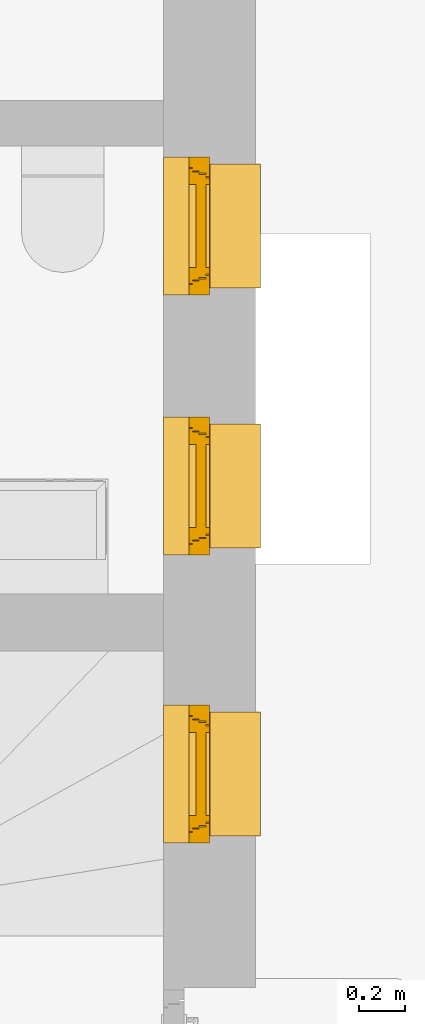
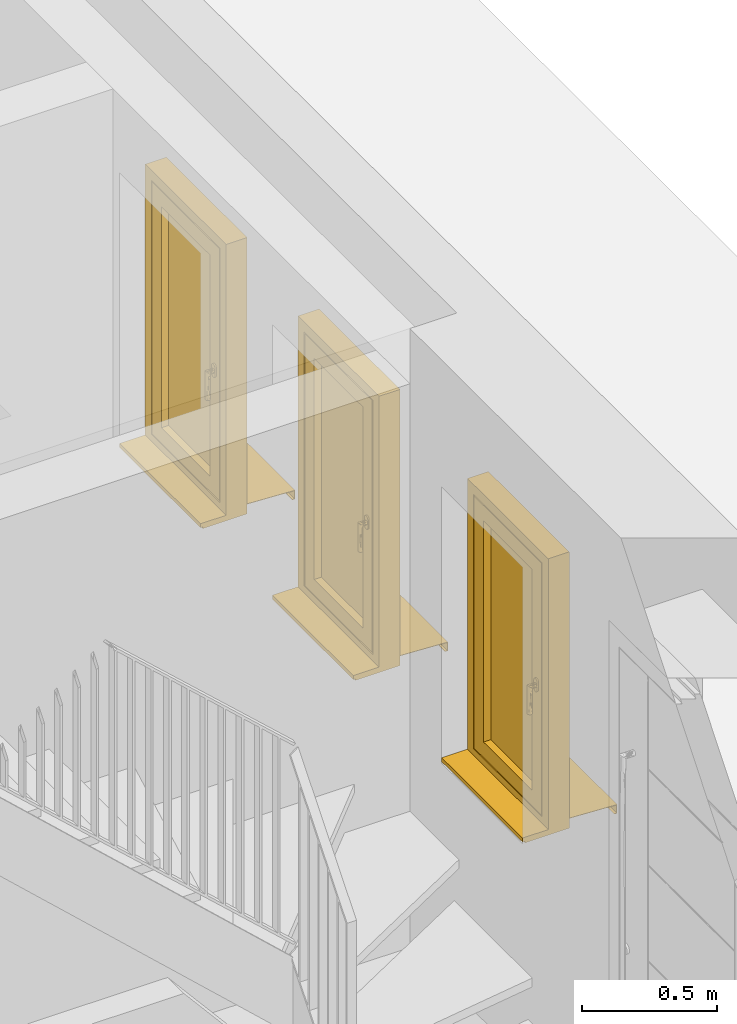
# One storey, part 9 of 18: 3 windows.
"""IFC2X3 building model written with IfcOpenShell, lengths in metres."""

from ifc_helpers import new_model, entity, si_unit, converted_unit, derived_unit, direction, frame, frame_2d, origin, place, context, subcontext, project, spatial, polyline, rectangle, outline, extrude, faceted_brep, source, transform, mapped, material, material_list, type_object, type_shapes, element, save


model = new_model("IFC2X3")

# Units and contexts
model_context = context("Model", 3, precision=1e-05, world=origin(), true_north=direction((6.123233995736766e-17, 1.0)))
body_context = subcontext(model_context, "Body", "Model", "MODEL_VIEW")
ifc_project = project(units=[si_unit("LENGTHUNIT", "METRE"), si_unit("AREAUNIT", "SQUARE_METRE"), si_unit("VOLUMEUNIT", "CUBIC_METRE"), si_unit("POWERUNIT", "WATT"), derived_unit("USERDEFINED", [(si_unit("MASSUNIT", "GRAM", prefix="KILO"), 1), (si_unit("TIMEUNIT", "SECOND"), -3)]), derived_unit("THERMALRESISTANCEUNIT", [(si_unit("MASSUNIT", "GRAM", prefix="KILO"), -1), (si_unit("TIMEUNIT", "SECOND"), 3), (si_unit("THERMODYNAMICTEMPERATUREUNIT", "KELVIN"), 1)]), derived_unit("USERDEFINED", [(si_unit("MASSUNIT", "GRAM", prefix="KILO"), 1), (si_unit("TIMEUNIT", "SECOND"), -2), (si_unit("THERMODYNAMICTEMPERATUREUNIT", "KELVIN"), -1)]), derived_unit("THERMALTRANSMITTANCEUNIT", [(si_unit("MASSUNIT", "GRAM", prefix="KILO"), 1), (si_unit("TIMEUNIT", "SECOND"), -3), (si_unit("THERMODYNAMICTEMPERATUREUNIT", "KELVIN"), -1)]), converted_unit("PLANEANGLEUNIT", "DEGREE", entity("IfcPlaneAngleMeasure", 0.017453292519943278), si_unit("PLANEANGLEUNIT", "RADIAN"), dimensions=[0, 0, 0, 0, 0, 0, 0]), derived_unit("MOMENTOFINERTIAUNIT", [(si_unit("LENGTHUNIT", "METRE"), 4)])], contexts=[model_context])

# Site, building, storey
site_placement = place(None, origin())
site = spatial("IfcSite", under=ifc_project, at=site_placement, Name="Default", CompositionType="ELEMENT")
building_placement = place(site_placement, origin())
building = spatial("IfcBuilding", under=site, at=building_placement, CompositionType="ELEMENT")
storey_placement = place(building_placement, frame((0.0, 0.0, 2.6)))
storey = spatial("IfcBuildingStorey", under=building, at=storey_placement, Name="Erdgeschoss", CompositionType="ELEMENT", Elevation=2.6)

# Windows
ifc_material_1 = material(Name="Glas - Isolierverglasung klar")
ifc_material_2 = material(Name="Holz - generisch 140-100-70")
ifc_material_3 = material(Name="Metall - Edelstahl gebürstet")
ifc_material_4 = material(Name="Kunststoff - grau 70-70-70")
ifc_material_list = material_list([ifc_material_1, ifc_material_2, ifc_material_3, ifc_material_4])
window_style = type_object("IfcWindowStyle", Name="FE 1 tlg - DrehKipp:600 x 1250", ConstructionType="NOTDEFINED", OperationType="NOTDEFINED", ParameterTakesPrecedence=False, Sizeable=False, material=ifc_material_list)
shared_shape = source(origin(), body_context, "Body", "SolidModel", [
    extrude(rectangle(XDim=0.04399999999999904, YDim=0.36000000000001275, at=frame_2d((-3.469446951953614e-18, -1.3877787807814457e-17), x_axis=(1.0, 0.0))), frame((0.30000000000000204, 0.16300000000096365, 0.13000000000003), z_axis=(0.0, 0.0, 1.0), x_axis=(0.0, -1.0, 0.0)), (0.0, 0.0, 1.0), 0.9999999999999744),
    extrude(outline(polyline([(-0.014333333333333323, -0.04000000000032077), (0.0036666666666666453, -0.04000000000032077), (0.0036666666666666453, -0.03000000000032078), (0.010666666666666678, -0.03000000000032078), (0.010666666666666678, 0.07000000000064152), (-0.014333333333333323, 0.07000000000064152), (-0.014333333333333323, -0.04000000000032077)])), frame((0.0, 0.04000000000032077, 0.010666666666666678), z_axis=(1.0, 0.0, 0.0), x_axis=(0.0, 0.0, -1.0)), (0.0, 0.0, 1.0), 0.5999999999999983),
    faceted_brep([(0.5270740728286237, 0.11000000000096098, 0.6092647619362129), (0.5258253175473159, 0.11000000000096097, 0.6062499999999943), (0.5238388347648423, 0.11000000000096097, 0.6036611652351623), (0.5212500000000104, 0.11000000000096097, 0.601674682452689), (0.5182352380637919, 0.11000000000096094, 0.600425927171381), (0.5150000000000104, 0.11000000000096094, 0.5999999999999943), (0.511764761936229, 0.11000000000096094, 0.600425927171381), (0.5087500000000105, 0.11000000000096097, 0.601674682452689), (0.5061611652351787, 0.11000000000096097, 0.6036611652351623), (0.504174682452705, 0.11000000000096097, 0.6062499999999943), (0.5029259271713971, 0.11000000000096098, 0.6092647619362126), (0.5025000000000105, 0.110000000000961, 0.6124999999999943), (0.5025000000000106, 0.11000000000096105, 0.6299999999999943), (0.5025000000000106, 0.11000000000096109, 0.6474999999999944), (0.5029259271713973, 0.11000000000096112, 0.6507352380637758), (0.5041746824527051, 0.11000000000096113, 0.6537499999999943), (0.5061611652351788, 0.11000000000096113, 0.6563388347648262), (0.5087500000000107, 0.11000000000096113, 0.6583253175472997), (0.5117647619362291, 0.11000000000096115, 0.6595740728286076), (0.5150000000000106, 0.11000000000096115, 0.6599999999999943), (0.5182352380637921, 0.11000000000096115, 0.6595740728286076), (0.5212500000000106, 0.11000000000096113, 0.6583253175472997), (0.5238388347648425, 0.11000000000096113, 0.6563388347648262), (0.5258253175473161, 0.11000000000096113, 0.6537499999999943), (0.527074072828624, 0.11000000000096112, 0.6507352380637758), (0.5275000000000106, 0.11000000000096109, 0.6474999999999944), (0.5275000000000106, 0.11000000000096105, 0.6299999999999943), (0.5275000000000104, 0.110000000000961, 0.6124999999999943), (0.5246592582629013, 0.07741180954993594, 0.6325881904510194), (0.5200000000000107, 0.10400000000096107, 0.6386602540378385), (0.523660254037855, 0.07500000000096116, 0.6349999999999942), (0.5175881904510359, 0.10400000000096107, 0.6396592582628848), (0.5220710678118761, 0.07292893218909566, 0.6370710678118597), (0.517588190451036, 0.07034074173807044, 0.6396592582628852), (0.5200000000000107, 0.07133974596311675, 0.6386602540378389), (0.5100000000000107, 0.07133974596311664, 0.6386602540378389), (0.5124118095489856, 0.07034074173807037, 0.6396592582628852), (0.5150000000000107, 0.07000000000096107, 0.6399999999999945), (0.5150000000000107, 0.10400000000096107, 0.6399999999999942), (0.5246592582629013, 0.10400000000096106, 0.6325881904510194), (0.5250000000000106, 0.08000000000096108, 0.6299999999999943), (0.5250000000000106, 0.08292891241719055, 0.6299999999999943), (0.5250000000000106, 0.08585782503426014, 0.6299999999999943), (0.5250000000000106, 0.09171565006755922, 0.6299999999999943), (0.5250000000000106, 0.10400000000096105, 0.6299999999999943), (0.523660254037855, 0.10400000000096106, 0.6349999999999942), (0.5220710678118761, 0.10400000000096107, 0.6370710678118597), (0.5079289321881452, 0.0729289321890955, 0.63707106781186), (0.5053407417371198, 0.07741180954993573, 0.6325881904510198), (0.5063397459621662, 0.07500000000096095, 0.6349999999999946), (0.5100000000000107, 0.10400000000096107, 0.6386602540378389), (0.5124118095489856, 0.10400000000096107, 0.6396592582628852), (0.5050000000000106, 0.08000000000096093, 0.6299999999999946), (0.5079289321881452, 0.10400000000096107, 0.63707106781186), (0.5063397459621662, 0.10400000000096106, 0.6349999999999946), (0.5053407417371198, 0.10400000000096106, 0.6325881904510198), (0.5050000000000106, 0.10400000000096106, 0.6299999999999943), (0.5050000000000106, 0.09171564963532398, 0.6299999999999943), (0.5050000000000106, 0.0858578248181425, 0.6299999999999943), (0.5050000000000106, 0.08292891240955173, 0.6299999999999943), (0.5063397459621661, 0.08500000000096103, 0.6249999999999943), (0.507928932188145, 0.0870710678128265, 0.622928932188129), (0.5053407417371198, 0.08258819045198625, 0.6274118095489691), (0.5053407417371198, 0.10400000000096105, 0.6274118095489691), (0.5236602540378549, 0.08500000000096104, 0.6249999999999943), (0.5246592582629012, 0.08258819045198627, 0.6274118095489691), (0.5246592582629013, 0.10400000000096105, 0.6274118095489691), (0.507928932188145, 0.10400000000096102, 0.622928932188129), (0.5124118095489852, 0.0896592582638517, 0.6203407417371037), (0.5100000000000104, 0.0886602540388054, 0.62133974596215), (0.5063397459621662, 0.10400000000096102, 0.6249999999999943), (0.5100000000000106, 0.10400000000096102, 0.62133974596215), (0.5124118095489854, 0.10400000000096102, 0.6203407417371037), (0.5150000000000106, 0.104000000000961, 0.6199999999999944), (0.5150000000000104, 0.09000000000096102, 0.6199999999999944), (0.5200000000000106, 0.08866025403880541, 0.62133974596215), (0.522071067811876, 0.08707106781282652, 0.622928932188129), (0.522071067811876, 0.10400000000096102, 0.622928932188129), (0.5175881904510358, 0.08965925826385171, 0.6203407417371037), (0.5175881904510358, 0.10400000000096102, 0.6203407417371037), (0.5200000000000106, 0.10400000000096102, 0.62133974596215), (0.523660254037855, 0.10400000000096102, 0.6249999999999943), (0.5236602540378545, 0.08500000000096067, 0.5099999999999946), (0.5246592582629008, 0.08258819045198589, 0.5099999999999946), (0.5250000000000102, 0.08000000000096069, 0.5099999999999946), (0.5246592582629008, 0.07741180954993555, 0.5099999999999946), (0.5236602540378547, 0.07500000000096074, 0.5099999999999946), (0.5220710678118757, 0.07292893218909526, 0.5099999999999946), (0.5200000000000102, 0.07133974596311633, 0.5099999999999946), (0.5175881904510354, 0.07034074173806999, 0.5099999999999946), (0.5150000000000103, 0.07000000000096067, 0.5099999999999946), (0.512411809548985, 0.07034074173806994, 0.5099999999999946), (0.5100000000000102, 0.07133974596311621, 0.5099999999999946), (0.5079289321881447, 0.0729289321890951, 0.5099999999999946), (0.5063397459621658, 0.07500000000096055, 0.5099999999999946), (0.5053407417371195, 0.07741180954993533, 0.5099999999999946), (0.5050000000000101, 0.08000000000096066, 0.5099999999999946), (0.5053407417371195, 0.08258819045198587, 0.5099999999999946), (0.5063397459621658, 0.08500000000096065, 0.5099999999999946), (0.5079289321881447, 0.08707106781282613, 0.5099999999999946), (0.5100000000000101, 0.08866025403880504, 0.5099999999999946), (0.5124118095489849, 0.08965925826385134, 0.5099999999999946), (0.5150000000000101, 0.09000000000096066, 0.5099999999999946), (0.5175881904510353, 0.08965925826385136, 0.5099999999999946), (0.5200000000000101, 0.08866025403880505, 0.5099999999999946), (0.5220710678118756, 0.08707106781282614, 0.5099999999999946), (0.5250000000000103, 0.08000000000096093, 0.5747913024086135), (0.5250000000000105, 0.080000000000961, 0.6023956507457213), (0.5050000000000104, 0.08000000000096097, 0.6023956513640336), (0.5050000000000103, 0.0800000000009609, 0.5747913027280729), (0.5061611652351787, 0.10400000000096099, 0.6036611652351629), (0.504174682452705, 0.10400000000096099, 0.6062499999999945), (0.5087500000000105, 0.10400000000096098, 0.6016746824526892), (0.511764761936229, 0.10400000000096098, 0.6004259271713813), (0.5150000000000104, 0.10400000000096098, 0.5999999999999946), (0.5182352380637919, 0.10400000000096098, 0.6004259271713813), (0.5212500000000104, 0.10400000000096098, 0.6016746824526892), (0.5238388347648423, 0.10400000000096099, 0.6036611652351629), (0.5258253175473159, 0.10400000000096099, 0.6062499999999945), (0.5270740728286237, 0.104000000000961, 0.6092647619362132), (0.5275000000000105, 0.104000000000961, 0.6124999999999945), (0.5275000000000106, 0.10400000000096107, 0.6299999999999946), (0.5275000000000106, 0.10400000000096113, 0.6474999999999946), (0.527074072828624, 0.10400000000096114, 0.6507352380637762), (0.5258253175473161, 0.10400000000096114, 0.6537499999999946), (0.5238388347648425, 0.10400000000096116, 0.6563388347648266), (0.5212500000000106, 0.10400000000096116, 0.6583253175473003), (0.5182352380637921, 0.10400000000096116, 0.6595740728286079), (0.5150000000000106, 0.10400000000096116, 0.6599999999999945), (0.5117647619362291, 0.10400000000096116, 0.6595740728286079), (0.5087500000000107, 0.10400000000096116, 0.6583253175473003), (0.5061611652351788, 0.10400000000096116, 0.6563388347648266), (0.5041746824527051, 0.10400000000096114, 0.6537499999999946), (0.5029259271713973, 0.10400000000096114, 0.6507352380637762), (0.5025000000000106, 0.10400000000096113, 0.6474999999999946), (0.5025000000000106, 0.10400000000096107, 0.6299999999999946), (0.5025000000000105, 0.104000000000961, 0.6124999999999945), (0.5029259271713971, 0.104000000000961, 0.6092647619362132)], [[[0, 1, 2, 3, 4, 5, 6, 7, 8, 9, 10, 11, 12, 13, 14, 15, 16, 17, 18, 19, 20, 21, 22, 23, 24, 25, 26, 27]], [[28, 29, 30]], [[30, 31, 32]], [[33, 34, 35, 36, 37]], [[38, 32, 31]], [[34, 32, 38]], [[39, 40, 41, 42, 43, 44]], [[45, 40, 39]], [[40, 45, 46]], [[29, 28, 46]], [[46, 28, 40]], [[29, 31, 30]], [[38, 35, 34]], [[35, 38, 47]], [[48, 49, 50]], [[51, 49, 47]], [[52, 48, 53]], [[47, 38, 51]], [[49, 51, 50]], [[52, 53, 54]], [[55, 56, 57, 58, 59, 52]], [[55, 52, 54]], [[53, 48, 50]], [[60, 57, 61]], [[59, 58, 62, 52]], [[56, 63, 57]], [[64, 43, 42]], [[41, 40, 65, 42]], [[44, 43, 66]], [[67, 68, 69]], [[67, 69, 57]], [[69, 61, 57]], [[63, 70, 57]], [[67, 71, 68]], [[67, 57, 70]], [[72, 68, 71]], [[72, 73, 74, 68]], [[75, 43, 76]], [[77, 75, 78]], [[65, 64, 42]], [[76, 43, 64]], [[79, 78, 74, 73]], [[78, 79, 80]], [[62, 58, 60]], [[43, 75, 77]], [[60, 58, 57]], [[81, 66, 43]], [[77, 81, 43]], [[77, 78, 80]], [[82, 83, 84, 85, 86, 87, 88, 89, 90, 91, 92, 93, 94, 95, 96, 97, 98, 99, 100, 101, 102, 103, 104, 105]], [[85, 84, 106, 107, 40]], [[85, 40, 86]], [[34, 33, 89, 88]], [[87, 86, 28]], [[88, 87, 32, 34]], [[28, 30, 87]], [[86, 40, 28]], [[87, 30, 32]], [[33, 37, 90, 89]], [[47, 93, 92, 35]], [[35, 92, 91, 36]], [[95, 52, 108, 109, 96]], [[52, 95, 94]], [[48, 94, 93]], [[90, 37, 36, 91]], [[47, 49, 93]], [[49, 48, 93]], [[48, 52, 94]], [[99, 98, 109]], [[97, 109, 98]], [[109, 68, 101]], [[101, 100, 109]], [[100, 99, 109]], [[96, 109, 97]], [[108, 52, 62]], [[108, 62, 60]], [[102, 101, 68, 74]], [[68, 109, 69]], [[61, 69, 109]], [[60, 61, 108]], [[65, 107, 64]], [[108, 61, 109]], [[104, 106, 105]], [[103, 106, 104]], [[83, 106, 84]], [[107, 65, 40]], [[82, 106, 83]], [[105, 106, 82]], [[103, 102, 74, 78]], [[78, 106, 103]], [[75, 76, 106]], [[76, 107, 106]], [[106, 78, 75]], [[76, 64, 107]], [[110, 73, 111]], [[112, 73, 110]], [[112, 113, 73]], [[114, 73, 113]], [[115, 73, 114]], [[115, 116, 73]], [[117, 73, 116]], [[117, 118, 73]], [[118, 79, 73]], [[79, 118, 119]], [[119, 120, 79]], [[120, 80, 79]], [[120, 77, 80]], [[77, 120, 81]], [[81, 120, 121]], [[66, 81, 121]], [[44, 66, 121]], [[39, 44, 121]], [[45, 39, 121]], [[45, 121, 122]], [[122, 46, 45]], [[122, 29, 46]], [[122, 31, 29]], [[122, 123, 31]], [[124, 31, 123]], [[124, 38, 31]], [[125, 38, 124]], [[38, 125, 126]], [[38, 126, 127]], [[127, 128, 38]], [[128, 129, 38]], [[38, 129, 130]], [[130, 131, 38]], [[132, 38, 131]], [[38, 132, 51]], [[51, 132, 133]], [[134, 51, 133]], [[134, 50, 51]], [[134, 53, 50]], [[134, 54, 53]], [[134, 135, 54]], [[55, 54, 135]], [[135, 56, 55]], [[63, 56, 135]], [[70, 63, 135]], [[136, 70, 135]], [[136, 67, 70]], [[136, 71, 67]], [[71, 136, 72]], [[72, 136, 137]], [[111, 72, 137]], [[111, 73, 72]], [[13, 134, 133, 14]], [[14, 133, 132, 15]], [[17, 16, 131, 130]], [[131, 16, 15, 132]], [[18, 17, 130, 129]], [[18, 129, 128, 19]], [[19, 128, 127, 20]], [[20, 127, 126, 21]], [[23, 22, 125, 124]], [[125, 22, 21, 126]], [[24, 23, 124, 123]], [[24, 123, 122, 25]], [[26, 25, 122, 121, 120, 27]], [[27, 120, 119, 0]], [[0, 119, 118, 1]], [[3, 2, 117, 116]], [[117, 2, 1, 118]], [[4, 3, 116, 115]], [[4, 115, 114, 5]], [[5, 114, 113, 6]], [[6, 113, 112, 7]], [[9, 8, 110, 111]], [[110, 8, 7, 112]], [[10, 9, 111, 137]], [[10, 137, 136, 11]], [[12, 11, 136, 135, 134, 13]]]),
    faceted_brep([(0.12000000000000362, 0.11000000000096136, 1.1299999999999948), (0.12000000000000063, 0.11000000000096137, 0.12999999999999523), (0.12000000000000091, 0.20000000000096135, 0.12999999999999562), (0.12000000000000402, 0.20000000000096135, 1.1299999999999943), (0.48000000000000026, 0.20000000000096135, 0.1299999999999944), (0.4800000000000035, 0.20000000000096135, 1.1299999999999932), (0.09000000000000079, 0.20000000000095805, 0.09999999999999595), (0.09000000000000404, 0.20000000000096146, 1.1599999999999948), (0.5100000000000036, 0.20000000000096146, 1.1599999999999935), (0.5100000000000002, 0.20000000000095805, 0.0999999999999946), (0.48000000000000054, 0.11000000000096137, 0.129999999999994), (0.48000000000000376, 0.11000000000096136, 1.129999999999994), (0.05000000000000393, 0.11000000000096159, 1.1999999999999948), (0.05000000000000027, 0.11000000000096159, 0.059999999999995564), (0.5500000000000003, 0.11000000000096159, 0.05999999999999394), (0.5500000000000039, 0.11000000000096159, 1.1999999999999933), (0.050000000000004, 0.1250000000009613, 1.1999999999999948), (0.05000000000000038, 0.1250000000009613, 0.059999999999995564), (0.5500000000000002, 0.1250000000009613, 0.05999999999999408), (0.5500000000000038, 0.1250000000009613, 1.1999999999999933), (0.06500000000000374, 0.12500000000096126, 1.1849999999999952), (0.06500000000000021, 0.12500000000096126, 0.0749999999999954), (0.5350000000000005, 0.12500000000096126, 0.07499999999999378), (0.535000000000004, 0.12500000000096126, 1.1849999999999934), (0.06500000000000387, 0.15500000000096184, 1.184999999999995), (0.06500000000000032, 0.1550000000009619, 0.0749999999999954), (0.5350000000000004, 0.1550000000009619, 0.07499999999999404), (0.535000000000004, 0.15500000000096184, 1.1849999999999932), (0.075000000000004, 0.1550000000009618, 1.174999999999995), (0.07500000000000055, 0.1550000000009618, 0.0849999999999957), (0.5250000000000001, 0.1550000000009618, 0.08499999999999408), (0.5250000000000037, 0.1550000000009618, 1.1749999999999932), (0.07500000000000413, 0.18500000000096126, 1.1749999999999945), (0.07500000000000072, 0.18500000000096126, 0.08499999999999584), (0.5250000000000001, 0.18500000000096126, 0.08499999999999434), (0.5250000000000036, 0.18500000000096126, 1.1749999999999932), (0.09000000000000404, 0.18500000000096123, 1.1599999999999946), (0.0900000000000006, 0.18500000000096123, 0.09999999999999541), (0.5100000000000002, 0.18500000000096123, 0.09999999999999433), (0.5100000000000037, 0.18500000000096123, 1.1599999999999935)], [[[0, 1, 2, 3]], [[3, 2, 4, 5], [6, 7, 8, 9]], [[1, 10, 4, 2]], [[1, 0, 11, 10], [12, 13, 14, 15]], [[16, 17, 13, 12]], [[17, 18, 14, 13]], [[17, 16, 19, 18], [20, 21, 22, 23]], [[24, 25, 21, 20]], [[25, 26, 22, 21]], [[25, 24, 27, 26], [28, 29, 30, 31]], [[32, 33, 29, 28]], [[33, 34, 30, 29]], [[33, 32, 35, 34], [36, 37, 38, 39]], [[7, 6, 37, 36]], [[6, 9, 38, 37]], [[10, 11, 5, 4]], [[18, 19, 15, 14]], [[26, 27, 23, 22]], [[34, 35, 31, 30]], [[9, 8, 39, 38]], [[11, 0, 3, 5]], [[19, 16, 12, 15]], [[27, 24, 20, 23]], [[35, 32, 28, 31]], [[8, 7, 36, 39]]], outer=[[True], [False, True], [True], [False, True], [True], [True], [True, False], [True], [True], [True, False], [True], [True], [True, False], [True], [True], [True], [True], [True], [True], [True], [True], [True], [True], [True], [True]]),
    faceted_brep([(0.030000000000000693, 0.4220000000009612, 0.01090012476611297), (0.030000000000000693, 0.4000000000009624, 0.012000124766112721), (0.029999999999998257, 0.20200000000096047, 0.02190012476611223), (0.5699999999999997, 0.20200000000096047, 0.02190012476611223), (0.5699999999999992, 0.4000000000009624, 0.012000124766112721), (0.5699999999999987, 0.4220000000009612, 0.01090012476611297), (0.030000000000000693, 0.4220000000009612, -0.029099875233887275), (0.5699999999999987, 0.4220000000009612, -0.02909987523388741), (0.030000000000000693, 0.4100000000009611, -0.02909987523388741), (0.5699999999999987, 0.4100000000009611, -0.02909987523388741), (0.030000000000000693, 0.4100000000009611, -0.027099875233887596), (0.5699999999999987, 0.4100000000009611, -0.02709987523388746), (0.030000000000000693, 0.42000000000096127, -0.02709987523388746), (0.5699999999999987, 0.42000000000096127, -0.02709987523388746), (0.030000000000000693, 0.42000000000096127, 0.009000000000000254), (0.5699999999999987, 0.42000000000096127, 0.009000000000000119), (0.030000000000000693, 0.40000000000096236, 0.010000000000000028), (0.5699999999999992, 0.40000000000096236, 0.010000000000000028), (0.5699999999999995, 0.20000000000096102, 0.02000000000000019), (0.029999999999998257, 0.20000000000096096, 0.02000000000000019), (0.029999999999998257, 0.20000000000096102, 0.04000000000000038), (0.5699999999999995, 0.20000000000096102, 0.04000000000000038), (0.029999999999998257, 0.20200000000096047, 0.04000000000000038), (0.5699999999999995, 0.20200000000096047, 0.04000000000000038)], [[[0, 1, 2, 3, 4, 5]], [[6, 0, 5, 7]], [[8, 6, 7, 9]], [[10, 8, 9, 11]], [[12, 10, 11, 13]], [[14, 12, 13, 15]], [[16, 14, 15, 17, 18, 19]], [[20, 19, 18, 21]], [[22, 20, 21, 23]], [[2, 22, 23, 3]], [[16, 1, 0, 6, 8, 10, 12, 14]], [[17, 4, 3, 23, 21, 18]], [[1, 16, 19, 20, 22, 2]], [[4, 17, 15, 13, 11, 9, 7, 5]]]),
    faceted_brep([(0.5999999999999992, 0.20000000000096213, 0.0), (0.5999999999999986, 0.11000000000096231, 0.0), (0.0, 0.11000000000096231, 0.0), (0.0, 0.20000000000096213, 0.0), (0.5999999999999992, 0.20000000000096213, 1.249999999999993), (0.5999999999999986, 0.11000000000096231, 1.249999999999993), (0.5549999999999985, 0.11000000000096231, 1.204999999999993), (0.5549999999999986, 0.11000000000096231, 0.05500000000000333), (0.045000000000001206, 0.11000000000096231, 0.05500000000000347), (0.04500000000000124, 0.11000000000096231, 1.204999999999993), (0.0, 0.11000000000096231, 1.249999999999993), (0.0, 0.20000000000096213, 1.249999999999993), (0.5149999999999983, 0.20000000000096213, 0.09500000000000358), (0.5149999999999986, 0.20000000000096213, 1.164999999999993), (0.08500000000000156, 0.20000000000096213, 1.164999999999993), (0.08500000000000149, 0.20000000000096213, 0.09500000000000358), (0.5149999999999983, 0.1850000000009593, 0.09500000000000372), (0.5149999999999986, 0.1850000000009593, 1.164999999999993), (0.08500000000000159, 0.18500000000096, 0.09500000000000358), (0.08500000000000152, 0.18500000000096, 1.164999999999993), (0.5549999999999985, 0.12500000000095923, 1.204999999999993), (0.5549999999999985, 0.12500000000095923, 0.05500000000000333), (0.04500000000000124, 0.12500000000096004, 0.05500000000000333), (0.04500000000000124, 0.12500000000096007, 1.204999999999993), (0.5399999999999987, 0.12500000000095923, 1.189999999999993), (0.5399999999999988, 0.12500000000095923, 0.07000000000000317), (0.060000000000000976, 0.12500000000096, 0.07000000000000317), (0.060000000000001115, 0.12500000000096, 1.189999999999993), (0.5399999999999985, 0.15500000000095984, 0.07000000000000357), (0.5399999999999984, 0.15500000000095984, 1.1899999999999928), (0.06000000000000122, 0.15500000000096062, 1.189999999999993), (0.06000000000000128, 0.15500000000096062, 0.07000000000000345), (0.5299999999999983, 0.15500000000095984, 1.1799999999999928), (0.5299999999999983, 0.15500000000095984, 0.08000000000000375), (0.07000000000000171, 0.1550000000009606, 0.08000000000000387), (0.07000000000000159, 0.1550000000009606, 1.1799999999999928), (0.5299999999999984, 0.18500000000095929, 0.08000000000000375), (0.5299999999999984, 0.18500000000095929, 1.1799999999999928), (0.07000000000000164, 0.18500000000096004, 1.1799999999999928), (0.07000000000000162, 0.18500000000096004, 0.08000000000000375)], [[[0, 1, 2, 3]], [[4, 5, 1, 0]], [[6, 7, 8, 9], [5, 10, 2, 1]], [[10, 11, 3, 2]], [[12, 13, 14, 15], [11, 4, 0, 3]], [[12, 16, 17, 13]], [[18, 15, 14, 19]], [[16, 12, 15, 18]], [[20, 21, 7, 6]], [[7, 21, 22, 8]], [[8, 22, 23, 9]], [[21, 20, 23, 22], [24, 25, 26, 27]], [[28, 29, 30, 31], [32, 33, 34, 35]], [[29, 28, 25, 24]], [[25, 28, 31, 26]], [[17, 16, 18, 19], [36, 37, 38, 39]], [[37, 36, 33, 32]], [[33, 36, 39, 34]], [[26, 31, 30, 27]], [[34, 39, 38, 35]], [[4, 11, 10, 5]], [[20, 6, 9, 23]], [[29, 24, 27, 30]], [[37, 32, 35, 38]], [[13, 17, 19, 14]]], outer=[[True], [True], [False, True], [True], [False, True], [True], [True], [True], [True], [True], [True], [True, False], [True, False], [True], [True], [False, True], [True], [True], [True], [True], [True], [True], [True], [True], [True]]),
])
type_shapes(window_style, [shared_shape])
for number, where, z_axis, x_axis, name in (
    (1, (38.226720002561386, 22.84727237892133, 0.9758571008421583), (0.0, 0.0, 1.0), (0.0, -1.0, 0.0), "FE 1 tlg - DrehKipp:600 x 1250"),
    (2, (38.226720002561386, 24.10227237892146, 0.9499999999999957), (0.0, 0.0, 1.0), (0.0, -1.0, 0.0), "FE 1 tlg - DrehKipp:600 x 1250"),
    (3, (38.22672000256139, 25.234772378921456, 0.9500000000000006), (0.0, 0.0, 1.0), (0.0, -1.0, 0.0), "FE 1 tlg - DrehKipp:600 x 1250"),
):
    element("IfcWindow", number, at=place(storey_placement, frame(where, z_axis=z_axis, x_axis=x_axis)), inside=storey, type_object=window_style, material=ifc_material_list, Name=name, ObjectType="FE 1 tlg - DrehKipp:600 x 1250", OverallHeight=2.1000000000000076, OverallWidth=0.600000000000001, context=body_context, shape_type="MappedRepresentation", body=[
        mapped(shared_shape, transform((0.0, 0.0, 0.0), scale=1.0)),
    ])

save(model, "model.ifc")
